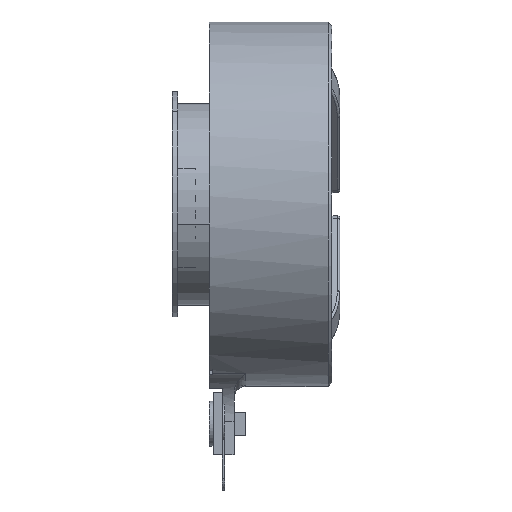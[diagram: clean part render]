
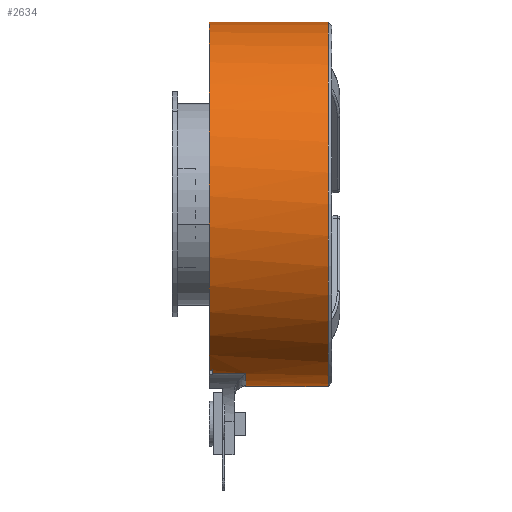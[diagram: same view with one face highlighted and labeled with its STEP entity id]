
A CAD part, left-side view. The second image highlights one B-rep face of the part: STEP entity #2634.
In plain terms, the highlighted cylindrical face has radius 23.39 mm (diameter 46.78 mm), a partial arc.
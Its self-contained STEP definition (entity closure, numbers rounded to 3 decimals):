
#2 = CARTESIAN_POINT ( 'NONE',  ( 0., 0., 0. ) ) ;
#8 = EDGE_CURVE ( 'NONE', #2130, #5722, #2419, .T. ) ;
#45 = CARTESIAN_POINT ( 'NONE',  ( 0., 15.76, 23.39 ) ) ;
#585 = LINE ( 'NONE', #4602, #2221 ) ;
#669 = DIRECTION ( 'NONE',  ( 0., -1., 0. ) ) ;
#705 = CARTESIAN_POINT ( 'NONE',  ( 0., 0.5, -23.39 ) ) ;
#816 = LINE ( 'NONE', #6346, #7895 ) ;
#900 = CARTESIAN_POINT ( 'NONE',  ( -9.695, 15.76, -21.286 ) ) ;
#1137 = VERTEX_POINT ( 'NONE', #10009 ) ;
#1616 = DIRECTION ( 'NONE',  ( 0., 0., -1. ) ) ;
#1619 = CARTESIAN_POINT ( 'NONE',  ( -8.657, 15.36, -21.729 ) ) ;
#1673 = CARTESIAN_POINT ( 'NONE',  ( 0., 0.5, 23.39 ) ) ;
#1827 = DIRECTION ( 'NONE',  ( 0., -1., 0. ) ) ;
#2130 = VERTEX_POINT ( 'NONE', #705 ) ;
#2221 = VECTOR ( 'NONE', #3042, 1000. ) ;
#2243 = EDGE_CURVE ( 'NONE', #8977, #4268, #7791, .T. ) ;
#2351 = LINE ( 'NONE', #3339, #6956 ) ;
#2419 = CIRCLE ( 'NONE', #3423, 23.39 ) ;
#2426 = DIRECTION ( 'NONE',  ( 0., -1., 0. ) ) ;
#2634 = ADVANCED_FACE ( 'NONE', ( #3080 ), #7002, .T. ) ;
#2877 = CARTESIAN_POINT ( 'NONE',  ( 0., 0.5, 0. ) ) ;
#3042 = DIRECTION ( 'NONE',  ( 0., -1., 0. ) ) ;
#3080 = FACE_OUTER_BOUND ( 'NONE', #9211, .T. ) ;
#3236 = AXIS2_PLACEMENT_3D ( 'NONE', #9771, #1827, #8209 ) ;
#3286 = AXIS2_PLACEMENT_3D ( 'NONE', #8725, #3807, #5442 ) ;
#3339 = CARTESIAN_POINT ( 'NONE',  ( -8.657, 0., -21.729 ) ) ;
#3423 = AXIS2_PLACEMENT_3D ( 'NONE', #2877, #7786, #3749 ) ;
#3559 = EDGE_CURVE ( 'NONE', #8977, #5722, #9912, .T. ) ;
#3749 = DIRECTION ( 'NONE',  ( 0., 0., -1. ) ) ;
#3774 = EDGE_CURVE ( 'NONE', #4528, #2130, #816, .T. ) ;
#3777 = CIRCLE ( 'NONE', #10320, 23.39 ) ;
#3807 = DIRECTION ( 'NONE',  ( 0., -1., 0. ) ) ;
#3903 = DIRECTION ( 'NONE',  ( 0., -1., 0. ) ) ;
#4044 = ORIENTED_EDGE ( 'NONE', *, *, #5793, .T. ) ;
#4268 = VERTEX_POINT ( 'NONE', #900 ) ;
#4528 = VERTEX_POINT ( 'NONE', #6222 ) ;
#4602 = CARTESIAN_POINT ( 'NONE',  ( -9.695, 0., -21.286 ) ) ;
#4680 = ORIENTED_EDGE ( 'NONE', *, *, #8752, .T. ) ;
#4997 = ORIENTED_EDGE ( 'NONE', *, *, #7094, .T. ) ;
#5176 = ORIENTED_EDGE ( 'NONE', *, *, #3559, .F. ) ;
#5197 = VERTEX_POINT ( 'NONE', #8496 ) ;
#5251 = CARTESIAN_POINT ( 'NONE',  ( 0., 0., 23.39 ) ) ;
#5442 = DIRECTION ( 'NONE',  ( 0., 0., -1. ) ) ;
#5722 = VERTEX_POINT ( 'NONE', #1673 ) ;
#5793 = EDGE_CURVE ( 'NONE', #8524, #5197, #2351, .T. ) ;
#5797 = AXIS2_PLACEMENT_3D ( 'NONE', #2, #669, #1616 ) ;
#6213 = ORIENTED_EDGE ( 'NONE', *, *, #2243, .T. ) ;
#6222 = CARTESIAN_POINT ( 'NONE',  ( 0., 11.06, -23.39 ) ) ;
#6346 = CARTESIAN_POINT ( 'NONE',  ( 0., 0., -23.39 ) ) ;
#6432 = CARTESIAN_POINT ( 'NONE',  ( 0., 11.06, 0. ) ) ;
#6917 = ORIENTED_EDGE ( 'NONE', *, *, #8, .T. ) ;
#6956 = VECTOR ( 'NONE', #3903, 1000. ) ;
#7002 = CYLINDRICAL_SURFACE ( 'NONE', #5797, 23.39 ) ;
#7094 = EDGE_CURVE ( 'NONE', #5197, #4528, #3777, .T. ) ;
#7115 = DIRECTION ( 'NONE',  ( 0., 0., -1. ) ) ;
#7605 = DIRECTION ( 'NONE',  ( 0., -1., 0. ) ) ;
#7752 = CIRCLE ( 'NONE', #3236, 23.39 ) ;
#7786 = DIRECTION ( 'NONE',  ( 0., 1., 0. ) ) ;
#7791 = CIRCLE ( 'NONE', #3286, 23.39 ) ;
#7895 = VECTOR ( 'NONE', #2426, 1000. ) ;
#8133 = EDGE_CURVE ( 'NONE', #4268, #1137, #585, .T. ) ;
#8209 = DIRECTION ( 'NONE',  ( 0., 0., 1. ) ) ;
#8496 = CARTESIAN_POINT ( 'NONE',  ( -8.657, 11.06, -21.729 ) ) ;
#8524 = VERTEX_POINT ( 'NONE', #1619 ) ;
#8630 = DIRECTION ( 'NONE',  ( 0., -1., 0. ) ) ;
#8725 = CARTESIAN_POINT ( 'NONE',  ( 0., 15.76, 0. ) ) ;
#8752 = EDGE_CURVE ( 'NONE', #1137, #8524, #7752, .T. ) ;
#8977 = VERTEX_POINT ( 'NONE', #45 ) ;
#9113 = ORIENTED_EDGE ( 'NONE', *, *, #3774, .T. ) ;
#9211 = EDGE_LOOP ( 'NONE', ( #5176, #6213, #9998, #4680, #4044, #4997, #9113, #6917 ) ) ;
#9771 = CARTESIAN_POINT ( 'NONE',  ( 0., 15.36, 0. ) ) ;
#9912 = LINE ( 'NONE', #5251, #10002 ) ;
#9998 = ORIENTED_EDGE ( 'NONE', *, *, #8133, .T. ) ;
#10002 = VECTOR ( 'NONE', #7605, 1000. ) ;
#10009 = CARTESIAN_POINT ( 'NONE',  ( -9.695, 15.36, -21.286 ) ) ;
#10320 = AXIS2_PLACEMENT_3D ( 'NONE', #6432, #8630, #7115 ) ;
